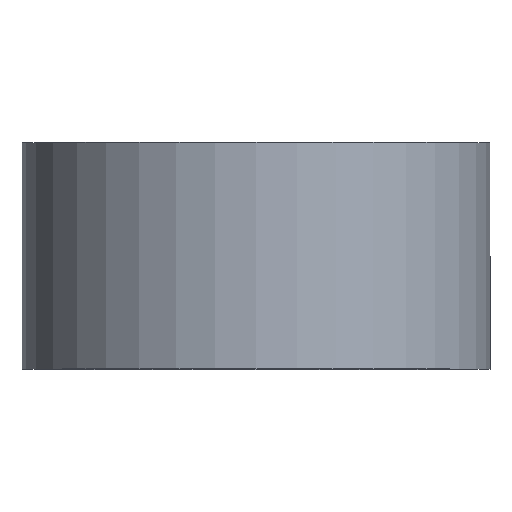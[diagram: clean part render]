
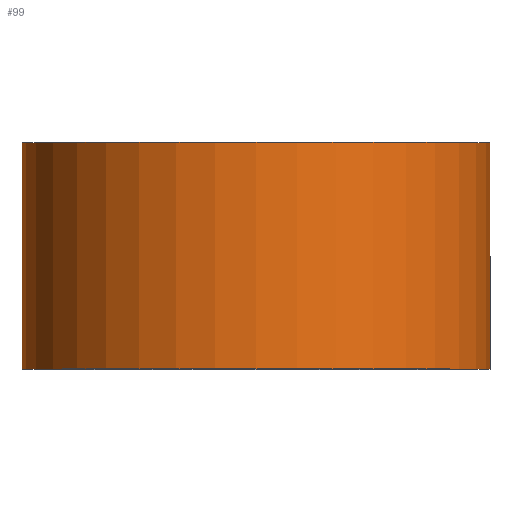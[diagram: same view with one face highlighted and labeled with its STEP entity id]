
A CAD part, top view. The second image highlights one B-rep face of the part: STEP entity #99.
In plain terms, the highlighted cylindrical face has radius 31 mm (diameter 62 mm), a partial arc.
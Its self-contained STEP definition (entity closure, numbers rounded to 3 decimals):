
#20 = CARTESIAN_POINT ( 'NONE',  ( 0., 30., 0. ) ) ;
#24 = ORIENTED_EDGE ( 'NONE', *, *, #75, .T. ) ;
#44 = CARTESIAN_POINT ( 'NONE',  ( -31., 0., 0. ) ) ;
#62 = LINE ( 'NONE', #196, #279 ) ;
#63 = ORIENTED_EDGE ( 'NONE', *, *, #152, .F. ) ;
#72 = DIRECTION ( 'NONE',  ( -1., 0., 0. ) ) ;
#75 = EDGE_CURVE ( 'NONE', #95, #238, #284, .T. ) ;
#90 = CYLINDRICAL_SURFACE ( 'NONE', #150, 31. ) ;
#94 = DIRECTION ( 'NONE',  ( 0., 1., 0. ) ) ;
#95 = VERTEX_POINT ( 'NONE', #109 ) ;
#99 = ADVANCED_FACE ( 'NONE', ( #102 ), #90, .T. ) ;
#102 = FACE_OUTER_BOUND ( 'NONE', #195, .T. ) ;
#109 = CARTESIAN_POINT ( 'NONE',  ( 31., 0., 0. ) ) ;
#124 = VERTEX_POINT ( 'NONE', #44 ) ;
#127 = EDGE_CURVE ( 'NONE', #124, #95, #265, .T. ) ;
#134 = DIRECTION ( 'NONE',  ( 0., 1., 0. ) ) ;
#136 = DIRECTION ( 'NONE',  ( 0., 1., 0. ) ) ;
#137 = DIRECTION ( 'NONE',  ( -1., 0., 0. ) ) ;
#138 = DIRECTION ( 'NONE',  ( -1., 0., 0. ) ) ;
#150 = AXIS2_PLACEMENT_3D ( 'NONE', #158, #134, #137 ) ;
#152 = EDGE_CURVE ( 'NONE', #124, #291, #62, .T. ) ;
#158 = CARTESIAN_POINT ( 'NONE',  ( 0., 0., 0. ) ) ;
#178 = CARTESIAN_POINT ( 'NONE',  ( -31., 30., 0. ) ) ;
#181 = VECTOR ( 'NONE', #136, 1000. ) ;
#186 = CARTESIAN_POINT ( 'NONE',  ( 0., 0., 0. ) ) ;
#195 = EDGE_LOOP ( 'NONE', ( #276, #24, #213, #63 ) ) ;
#196 = CARTESIAN_POINT ( 'NONE',  ( -31., 0., 0. ) ) ;
#199 = CARTESIAN_POINT ( 'NONE',  ( 31., 0., 0. ) ) ;
#204 = AXIS2_PLACEMENT_3D ( 'NONE', #186, #208, #72 ) ;
#207 = EDGE_CURVE ( 'NONE', #291, #238, #294, .T. ) ;
#208 = DIRECTION ( 'NONE',  ( 0., 1., 0. ) ) ;
#213 = ORIENTED_EDGE ( 'NONE', *, *, #207, .F. ) ;
#238 = VERTEX_POINT ( 'NONE', #296 ) ;
#265 = CIRCLE ( 'NONE', #204, 31. ) ;
#274 = AXIS2_PLACEMENT_3D ( 'NONE', #20, #301, #138 ) ;
#276 = ORIENTED_EDGE ( 'NONE', *, *, #127, .T. ) ;
#279 = VECTOR ( 'NONE', #94, 1000. ) ;
#284 = LINE ( 'NONE', #199, #181 ) ;
#291 = VERTEX_POINT ( 'NONE', #178 ) ;
#294 = CIRCLE ( 'NONE', #274, 31. ) ;
#296 = CARTESIAN_POINT ( 'NONE',  ( 31., 30., 0. ) ) ;
#301 = DIRECTION ( 'NONE',  ( 0., 1., 0. ) ) ;
